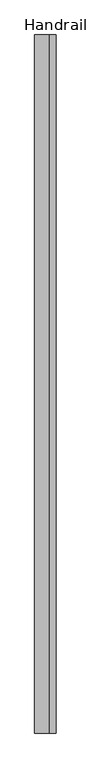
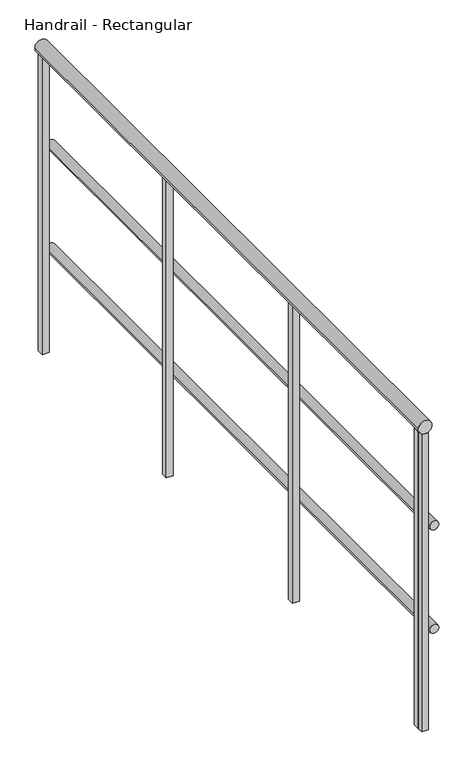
"""IFC4 building model written with IfcOpenShell, lengths in millimetres: railing geometry, Handrail - Rectangular."""

from ifc_helpers import new_model, si_unit, point, frame, frame_2d, origin, place, context, project, spatial, polyline, circle_curve, trimmed, segment, composite_curve, outline, extrude, source, transform, mapped, element, save


def handrail_rectangular_05f14369(model_context):
    return source(origin(), model_context, "Body", "SweptSolid", [
        extrude(outline(composite_curve([segment(trimmed(circle_curve(frame_2d((9740.9, 2322.5410437)), 12.7), [point((9740.9, 2335.2410437))], [point((9740.9, 2309.8410437))], False, "CARTESIAN"), True, "CONTINUOUS"), segment(trimmed(circle_curve(frame_2d((9740.9, 2322.5410437)), 12.7), [point((9740.9, 2309.8410437))], [point((9740.9, 2335.2410437))], False, "CARTESIAN"), True, "CONTINUOUS")], self_intersect=False)), frame((0.0, 4578.8316867, 0.0), z_axis=(0.0, 1.0, 0.0), x_axis=(0.0, 0.0, 1.0)), (0.0, 0.0, 1.0), 1854.2),
        extrude(outline(composite_curve([segment(trimmed(circle_curve(frame_2d((9436.1, 2322.5410437)), 12.7), [point((9436.1, 2335.2410437))], [point((9436.1, 2309.8410437))], False, "CARTESIAN"), True, "CONTINUOUS"), segment(trimmed(circle_curve(frame_2d((9436.1, 2322.5410437)), 12.7), [point((9436.1, 2309.8410437))], [point((9436.1, 2335.2410437))], False, "CARTESIAN"), True, "CONTINUOUS")], self_intersect=False)), frame((0.0, 4578.8316867, 0.0), z_axis=(0.0, 1.0, 0.0), x_axis=(0.0, 0.0, 1.0)), (0.0, 0.0, 1.0), 1854.2),
        extrude(outline(composite_curve([segment(trimmed(circle_curve(frame_2d((10039.35, 2297.1410437)), 19.05), [point((10039.35, 2316.1910437))], [point((10039.35, 2278.0910437))], False, "CARTESIAN"), True, "CONTINUOUS"), segment(trimmed(circle_curve(frame_2d((10039.35, 2297.1410437)), 19.05), [point((10039.35, 2278.0910437))], [point((10039.35, 2316.1910437))], False, "CARTESIAN"), True, "CONTINUOUS")], self_intersect=False)), frame((0.0, 4578.8316867, 0.0), z_axis=(0.0, 1.0, 0.0), x_axis=(0.0, 0.0, 1.0)), (0.0, 0.0, 1.0), 1854.2),
        extrude(outline(polyline([(2287.6160437, 4613.7566867), (2306.6660437, 4613.7566867), (2306.6660437, 4594.7066867), (2287.6160437, 4594.7066867), (2287.6160437, 4613.7566867)])), frame((0.0, 0.0, 9144.0), z_axis=(0.0, 0.0, 1.0), x_axis=(1.0, 0.0, 0.0)), (0.0, 0.0, 1.0), 876.3),
        extrude(outline(polyline([(2287.6160437, 5223.3566867), (2306.6660437, 5223.3566867), (2306.6660437, 5204.3066867), (2287.6160437, 5204.3066867), (2287.6160437, 5223.3566867)])), frame((0.0, 0.0, 9144.0), z_axis=(0.0, 0.0, 1.0), x_axis=(1.0, 0.0, 0.0)), (0.0, 0.0, 1.0), 876.3),
        extrude(outline(polyline([(2287.6160437, 5832.9566867), (2306.6660437, 5832.9566867), (2306.6660437, 5813.9066867), (2287.6160437, 5813.9066867), (2287.6160437, 5832.9566867)])), frame((0.0, 0.0, 9144.0), z_axis=(0.0, 0.0, 1.0), x_axis=(1.0, 0.0, 0.0)), (0.0, 0.0, 1.0), 876.3),
        extrude(outline(polyline([(2287.6160437, 4597.8816867), (2306.6660437, 4597.8816867), (2306.6660437, 4578.8316867), (2287.6160437, 4578.8316867), (2287.6160437, 4597.8816867)])), frame((0.0, 0.0, 9144.0), z_axis=(0.0, 0.0, 1.0), x_axis=(1.0, 0.0, 0.0)), (0.0, 0.0, 1.0), 876.3),
        extrude(outline(polyline([(2287.6160437, 6433.0316867), (2306.6660437, 6433.0316867), (2306.6660437, 6413.9816867), (2287.6160437, 6413.9816867), (2287.6160437, 6433.0316867)])), frame((0.0, 0.0, 9144.0), z_axis=(0.0, 0.0, 1.0), x_axis=(1.0, 0.0, 0.0)), (0.0, 0.0, 1.0), 876.3),
    ])


if __name__ == "__main__":
    model = new_model("IFC4")
    model_context = context("Model", 3, world=origin())
    ifc_project = project(units=[si_unit("LENGTHUNIT", "METRE", prefix="MILLI")], contexts=[model_context])
    site = spatial("IfcSite", under=ifc_project)
    building = spatial("IfcBuilding", under=site)
    placement = place(None, origin())
    handrail_rectangular_shape = handrail_rectangular_05f14369(model_context)
    element("IfcRailing", 1, ObjectType="Handrail - Rectangular", at=placement, inside=building, context=model_context, shape_type="MappedRepresentation", body=[
        mapped(handrail_rectangular_shape, transform((0.0, 0.0, 0.0), x_axis=(1.0, 0.0, 0.0), y_axis=(0.0, 1.0, 0.0), z_axis=(0.0, 0.0, 1.0))),
    ])
    save(model, "model.ifc")
